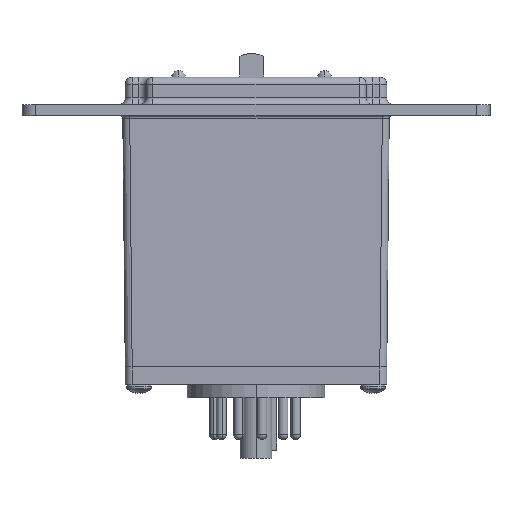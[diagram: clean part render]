
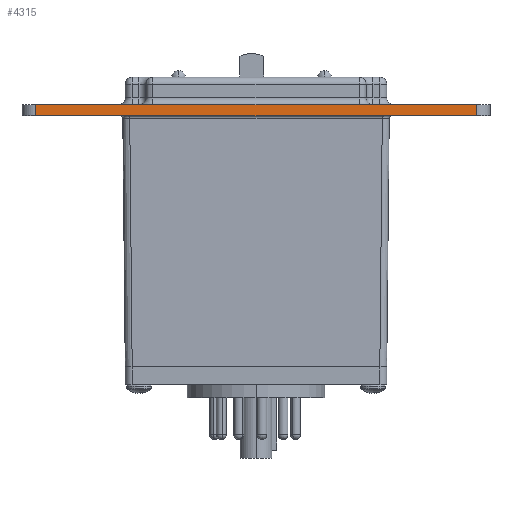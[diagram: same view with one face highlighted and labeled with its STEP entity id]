
A CAD part, left-side view. The second image highlights one B-rep face of the part: STEP entity #4315.
In plain terms, the highlighted planar face has unit normal (-1, 0, 0).
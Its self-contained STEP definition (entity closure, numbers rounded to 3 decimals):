
#2374 = PLANE('',#2375);
#2375 = AXIS2_PLACEMENT_3D('',#2376,#2377,#2378);
#2376 = CARTESIAN_POINT('',(-23.813,-50.8,67.31));
#2377 = DIRECTION('',(0.,0.,1.));
#2378 = DIRECTION('',(1.,0.,0.));
#2424 = PLANE('',#2425);
#2425 = AXIS2_PLACEMENT_3D('',#2426,#2427,#2428);
#2426 = CARTESIAN_POINT('',(-23.813,-50.8,64.77));
#2427 = DIRECTION('',(0.,0.,1.));
#2428 = DIRECTION('',(1.,0.,0.));
#3003 = VERTEX_POINT('',#3004);
#3004 = CARTESIAN_POINT('',(-26.988,-50.8,64.77));
#3021 = CYLINDRICAL_SURFACE('',#3022,3.175);
#3022 = AXIS2_PLACEMENT_3D('',#3023,#3024,#3025);
#3023 = CARTESIAN_POINT('',(-23.813,-50.8,64.77));
#3024 = DIRECTION('',(0.,0.,1.));
#3025 = DIRECTION('',(1.,0.,0.));
#3033 = EDGE_CURVE('',#3034,#3003,#3036,.T.);
#3034 = VERTEX_POINT('',#3035);
#3035 = CARTESIAN_POINT('',(-26.988,50.8,64.77));
#3036 = SURFACE_CURVE('',#3037,(#3041,#3048),.PCURVE_S1.);
#3037 = LINE('',#3038,#3039);
#3038 = CARTESIAN_POINT('',(-26.988,50.8,64.77));
#3039 = VECTOR('',#3040,1.);
#3040 = DIRECTION('',(0.,-1.,0.));
#3041 = PCURVE('',#2424,#3042);
#3042 = DEFINITIONAL_REPRESENTATION('',(#3043),#3047);
#3043 = LINE('',#3044,#3045);
#3044 = CARTESIAN_POINT('',(-3.175,101.6));
#3045 = VECTOR('',#3046,1.);
#3046 = DIRECTION('',(0.,-1.));
#3047 = ( GEOMETRIC_REPRESENTATION_CONTEXT(2) 
PARAMETRIC_REPRESENTATION_CONTEXT() REPRESENTATION_CONTEXT('2D SPACE',''
  ) );
#3048 = PCURVE('',#3049,#3054);
#3049 = PLANE('',#3050);
#3050 = AXIS2_PLACEMENT_3D('',#3051,#3052,#3053);
#3051 = CARTESIAN_POINT('',(-26.988,50.8,64.77));
#3052 = DIRECTION('',(-1.,0.,0.));
#3053 = DIRECTION('',(0.,-1.,0.));
#3054 = DEFINITIONAL_REPRESENTATION('',(#3055),#3059);
#3055 = LINE('',#3056,#3057);
#3056 = CARTESIAN_POINT('',(0.,0.));
#3057 = VECTOR('',#3058,1.);
#3058 = DIRECTION('',(1.,0.));
#3059 = ( GEOMETRIC_REPRESENTATION_CONTEXT(2) 
PARAMETRIC_REPRESENTATION_CONTEXT() REPRESENTATION_CONTEXT('2D SPACE',''
  ) );
#3078 = CYLINDRICAL_SURFACE('',#3079,3.175);
#3079 = AXIS2_PLACEMENT_3D('',#3080,#3081,#3082);
#3080 = CARTESIAN_POINT('',(-23.813,50.8,64.77));
#3081 = DIRECTION('',(0.,0.,1.));
#3082 = DIRECTION('',(1.,0.,0.));
#4082 = VERTEX_POINT('',#4083);
#4083 = CARTESIAN_POINT('',(-26.988,-50.8,67.31));
#4225 = VERTEX_POINT('',#4226);
#4226 = CARTESIAN_POINT('',(-26.988,50.8,67.31));
#4248 = EDGE_CURVE('',#4225,#4082,#4249,.T.);
#4249 = SURFACE_CURVE('',#4250,(#4254,#4261),.PCURVE_S1.);
#4250 = LINE('',#4251,#4252);
#4251 = CARTESIAN_POINT('',(-26.988,50.8,67.31));
#4252 = VECTOR('',#4253,1.);
#4253 = DIRECTION('',(0.,-1.,0.));
#4254 = PCURVE('',#2374,#4255);
#4255 = DEFINITIONAL_REPRESENTATION('',(#4256),#4260);
#4256 = LINE('',#4257,#4258);
#4257 = CARTESIAN_POINT('',(-3.175,101.6));
#4258 = VECTOR('',#4259,1.);
#4259 = DIRECTION('',(0.,-1.));
#4260 = ( GEOMETRIC_REPRESENTATION_CONTEXT(2) 
PARAMETRIC_REPRESENTATION_CONTEXT() REPRESENTATION_CONTEXT('2D SPACE',''
  ) );
#4261 = PCURVE('',#3049,#4262);
#4262 = DEFINITIONAL_REPRESENTATION('',(#4263),#4267);
#4263 = LINE('',#4264,#4265);
#4264 = CARTESIAN_POINT('',(0.,2.54));
#4265 = VECTOR('',#4266,1.);
#4266 = DIRECTION('',(1.,0.));
#4267 = ( GEOMETRIC_REPRESENTATION_CONTEXT(2) 
PARAMETRIC_REPRESENTATION_CONTEXT() REPRESENTATION_CONTEXT('2D SPACE',''
  ) );
#4273 = EDGE_CURVE('',#3003,#4082,#4274,.T.);
#4274 = SURFACE_CURVE('',#4275,(#4279,#4286),.PCURVE_S1.);
#4275 = LINE('',#4276,#4277);
#4276 = CARTESIAN_POINT('',(-26.988,-50.8,64.77));
#4277 = VECTOR('',#4278,1.);
#4278 = DIRECTION('',(0.,0.,1.));
#4279 = PCURVE('',#3021,#4280);
#4280 = DEFINITIONAL_REPRESENTATION('',(#4281),#4285);
#4281 = LINE('',#4282,#4283);
#4282 = CARTESIAN_POINT('',(3.142,0.));
#4283 = VECTOR('',#4284,1.);
#4284 = DIRECTION('',(0.,1.));
#4285 = ( GEOMETRIC_REPRESENTATION_CONTEXT(2) 
PARAMETRIC_REPRESENTATION_CONTEXT() REPRESENTATION_CONTEXT('2D SPACE',''
  ) );
#4286 = PCURVE('',#3049,#4287);
#4287 = DEFINITIONAL_REPRESENTATION('',(#4288),#4292);
#4288 = LINE('',#4289,#4290);
#4289 = CARTESIAN_POINT('',(101.6,0.));
#4290 = VECTOR('',#4291,1.);
#4291 = DIRECTION('',(0.,1.));
#4292 = ( GEOMETRIC_REPRESENTATION_CONTEXT(2) 
PARAMETRIC_REPRESENTATION_CONTEXT() REPRESENTATION_CONTEXT('2D SPACE',''
  ) );
#4315 = ADVANCED_FACE('',(#4316),#3049,.T.);
#4316 = FACE_BOUND('',#4317,.T.);
#4317 = EDGE_LOOP('',(#4318,#4319,#4340,#4341));
#4318 = ORIENTED_EDGE('',*,*,#4248,.F.);
#4319 = ORIENTED_EDGE('',*,*,#4320,.F.);
#4320 = EDGE_CURVE('',#3034,#4225,#4321,.T.);
#4321 = SURFACE_CURVE('',#4322,(#4326,#4333),.PCURVE_S1.);
#4322 = LINE('',#4323,#4324);
#4323 = CARTESIAN_POINT('',(-26.988,50.8,64.77));
#4324 = VECTOR('',#4325,1.);
#4325 = DIRECTION('',(0.,0.,1.));
#4326 = PCURVE('',#3049,#4327);
#4327 = DEFINITIONAL_REPRESENTATION('',(#4328),#4332);
#4328 = LINE('',#4329,#4330);
#4329 = CARTESIAN_POINT('',(0.,0.));
#4330 = VECTOR('',#4331,1.);
#4331 = DIRECTION('',(0.,1.));
#4332 = ( GEOMETRIC_REPRESENTATION_CONTEXT(2) 
PARAMETRIC_REPRESENTATION_CONTEXT() REPRESENTATION_CONTEXT('2D SPACE',''
  ) );
#4333 = PCURVE('',#3078,#4334);
#4334 = DEFINITIONAL_REPRESENTATION('',(#4335),#4339);
#4335 = LINE('',#4336,#4337);
#4336 = CARTESIAN_POINT('',(3.142,0.));
#4337 = VECTOR('',#4338,1.);
#4338 = DIRECTION('',(0.,1.));
#4339 = ( GEOMETRIC_REPRESENTATION_CONTEXT(2) 
PARAMETRIC_REPRESENTATION_CONTEXT() REPRESENTATION_CONTEXT('2D SPACE',''
  ) );
#4340 = ORIENTED_EDGE('',*,*,#3033,.T.);
#4341 = ORIENTED_EDGE('',*,*,#4273,.T.);
